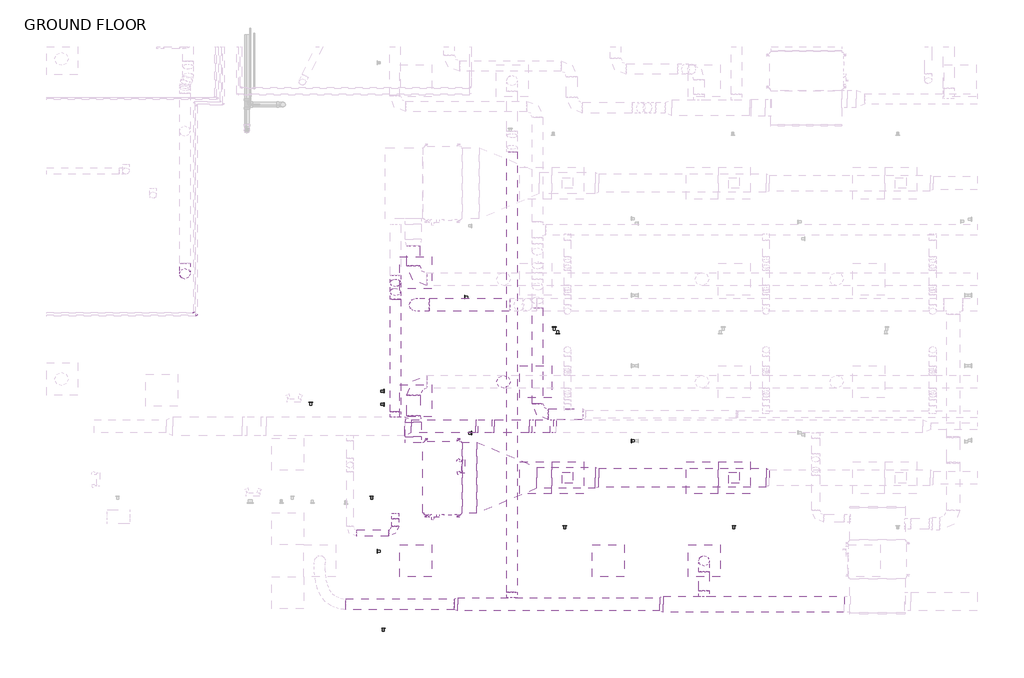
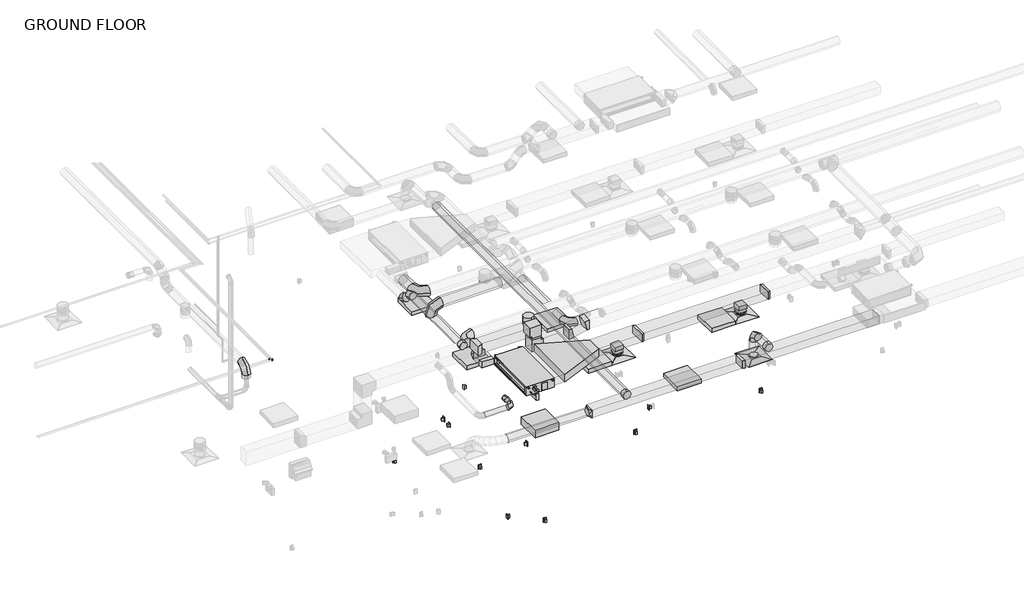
# One storey, part 2 of 22: 30 duct fittings, 28 duct segments, 8 light fixtures, 7 switching devices, 6 proxies, 3 air terminals, 2 pipe fittings, 1 electric appliance.
"""IFC4 building model written with IfcOpenShell, lengths in millimetres."""

from ifc_helpers import new_model, si_unit, point, frame, frame_2d, origin, place, context, project, spatial, polyline, circle_curve, trimmed, segment, composite_curve, outline, extrude, transform, mapped, element, save
from components import air_terminal_e9020785, mechanical_equipment_d478180c, duplex_receptacle_countertop_10251bba, rectangular_elbow_mitered_transition_standard_35919474, rectangular_elbow_radius_1_5_w_4707421c, rectangular_takeoff_standard_d07ea574, rectangular_takeoff_standard_fde45e03, rectangular_transition_angle_45_degree_e4fa7590, rectangular_transition_angle_45_degree_1d311e81, rectangular_transition_angle_45_degree_791ae252, rectangular_transition_angle_45_degree_a1440fe9, rectangular_transition_angle_45_degree_05e1d5e5, rectangular_to_round_transition_angle_45_degree_e9430680, rectangular_to_round_transition_angle_45_degree_5a025447, rectangular_to_round_transition_angle_45_degree_789dc1ad, round_elbow_1_d_a253342a, round_elbow_1_d_6fec3262, round_elbow_1_d_c80420c1, round_elbow_1_d_ab3aa7ba, round_takeoff_standard_d3b0d0f9, round_takeoff_standard_fb854549, round_takeoff_standard_c5a1f659, telephone_outlet_data_plain_18c24199, emergency_wall_light_120v_37438f40, troffer_corner_insert_2x2_3_lamp_emergency_29e3a813, troffer_corner_insert_2x2_3lamp_e67c7f8f, elbow_generic_standard_c06ac706, elbow_generic_standard_a088f956

model = new_model("IFC4")

# Units and contexts
model_context = context("Model", 3, world=origin())
ifc_project = project(units=[si_unit("LENGTHUNIT", "METRE", prefix="MILLI")], contexts=[model_context])

# Site, building, storey
site = spatial("IfcSite", under=ifc_project)
building = spatial("IfcBuilding", under=site)
storey = spatial("IfcBuildingStorey", under=building, Name="GROUND FLOOR", Elevation=30480.0)

# Air terminals
placement = place(None, origin())
air_terminal_shape = air_terminal_e9020785(model_context)
element("IfcAirTerminal", 1, ObjectType="Supply Diffuser - Rectangular Face Round Neck - Hosted : 24\"x24\" Face 8\" Neck - Hosted", at=placement, inside=storey, context=model_context, shape_type="MappedRepresentation", body=[
    mapped(air_terminal_shape, transform((-3970.9704607, -4228.1054995, 33223.2), x_axis=(0.0, -1.0, 0.0), y_axis=(-1.0, 0.0, 0.0), z_axis=(0.0, 0.0, -1.0))),
])
element("IfcAirTerminal", 2, ObjectType="Supply Diffuser - Rectangular Face Round Neck - Hosted : 24\"x24\" Face 8\" Neck - Hosted", at=placement, inside=storey, context=model_context, shape_type="MappedRepresentation", body=[
    mapped(air_terminal_shape, transform((-799.1454607, -4228.1054995, 33223.2), x_axis=(0.0, -1.0, 0.0), y_axis=(-1.0, 0.0, 0.0), z_axis=(0.0, 0.0, -1.0))),
])
element("IfcAirTerminal", 3, ObjectType="Supply Diffuser - Rectangular Face Round Neck - Hosted : 24\"x24\" Face 8\" Neck - Hosted", at=placement, inside=storey, context=model_context, shape_type="MappedRepresentation", body=[
    mapped(air_terminal_shape, transform((-1370.6454607, -5809.2554995, 33223.2), x_axis=(0.0, -1.0, 0.0), y_axis=(-1.0, 0.0, 0.0), z_axis=(0.0, 0.0, -1.0))),
])

# Proxies
mechanical_equipment_shape = mechanical_equipment_d478180c(model_context)
element("IfcBuildingElementProxy", 4, Name="PEFY-P-NMAU-E_Medium_Static_Ducted : PEFY-P36NMAU-E", ObjectType="PEFY-P-NMAU-E_Medium_Static_Ducted : PEFY-P36NMAU-E", at=placement, inside=storey, context=model_context, shape_type="MappedRepresentation", body=[
    mapped(mechanical_equipment_shape, transform((-6407.5018914, -4238.1177424, 33458.15), x_axis=(0.0, -1.0, 0.0), y_axis=(1.0, 0.0, 0.0), z_axis=(0.0, 0.0, 1.0))),
])
duplex_receptacle_countertop_shape = duplex_receptacle_countertop_10251bba(model_context)
element("IfcBuildingElementProxy", 5, Name="Duplex Receptacle : Standard", ObjectType="Duplex Receptacle : Standard", at=placement, inside=storey, context=model_context, shape_type="MappedRepresentation", body=[
    mapped(duplex_receptacle_countertop_shape, transform((-5799.7704607, -3377.6052402, 30937.2), x_axis=(0.0, 1.0, 0.0), y_axis=(0.0, 0.0, 1.0), z_axis=(1.0, 0.0, 0.0))),
])
element("IfcBuildingElementProxy", 6, Name="Duplex Receptacle : Standard", ObjectType="Duplex Receptacle : Standard", at=placement, inside=storey, context=model_context, shape_type="MappedRepresentation", body=[
    mapped(duplex_receptacle_countertop_shape, transform((-4158.8399036, -1484.9054995, 30937.2), x_axis=(1.0, 0.0, 0.0), y_axis=(0.0, 0.0, 1.0), z_axis=(0.0, -1.0, 0.0))),
])
element("IfcBuildingElementProxy", 7, Name="Duplex Receptacle : Standard", ObjectType="Duplex Receptacle : Standard", at=placement, inside=storey, context=model_context, shape_type="MappedRepresentation", body=[
    mapped(duplex_receptacle_countertop_shape, transform((-4224.9569269, -1361.0804995, 30937.2), x_axis=(-1.0, 0.0, 0.0), y_axis=(0.0, 0.0, 1.0), z_axis=(0.0, 1.0, 0.0))),
])
element("IfcBuildingElementProxy", 8, Name="Duplex Receptacle : Standard", ObjectType="Duplex Receptacle : Standard", at=placement, inside=storey, context=model_context, shape_type="MappedRepresentation", body=[
    mapped(duplex_receptacle_countertop_shape, transform((-5923.5954607, -788.0218283, 30937.2), x_axis=(0.0, -1.0, 0.0), y_axis=(0.0, 0.0, 1.0), z_axis=(-1.0, 0.0, 0.0))),
])
element("IfcBuildingElementProxy", 9, Name="Duplex Receptacle : Standard", ObjectType="Duplex Receptacle : Standard", at=placement, inside=storey, context=model_context, shape_type="MappedRepresentation", body=[
    mapped(duplex_receptacle_countertop_shape, transform((-7593.6454607, -5626.3898416, 30937.2), x_axis=(0.0, -1.0, 0.0), y_axis=(0.0, 0.0, 1.0), z_axis=(-1.0, 0.0, 0.0))),
])

# Duct fittings
rectangular_elbow_mitered_transition_standard_shape = rectangular_elbow_mitered_transition_standard_35919474(model_context)
element("IfcDuctFitting", 10, ObjectType="Rectangular Elbow - Mitered - Transition : Standard", at=placement, inside=storey, context=model_context, shape_type="MappedRepresentation", body=[
    mapped(rectangular_elbow_mitered_transition_standard_shape, transform((-5543.944811, -3245.6216457, 33909.0), x_axis=(1.0, 0.0, 0.0), y_axis=(0.0, 0.0, -1.0), z_axis=(0.0, 1.0, 0.0))),
])
element("IfcDuctFitting", 11, ObjectType="Rectangular Elbow - Mitered - Transition : Standard", at=placement, inside=storey, context=model_context, shape_type="MappedRepresentation", body=[
    mapped(rectangular_elbow_mitered_transition_standard_shape, transform((-5543.944811, -3245.6216457, 33502.6), x_axis=(-1.0, 0.0, 0.0), y_axis=(0.0, 0.0, 1.0), z_axis=(0.0, 1.0, 0.0))),
])
rectangular_elbow_radius_1_5_w_shape = rectangular_elbow_radius_1_5_w_4707421c(model_context)
element("IfcDuctFitting", 12, ObjectType="Rectangular Elbow - Radius : 1.5 W", at=placement, inside=storey, context=model_context, shape_type="MappedRepresentation", body=[
    mapped(rectangular_elbow_radius_1_5_w_shape, transform((-4654.944811, -3245.6216457, 33502.6), x_axis=(1.0, 0.0, 0.0), y_axis=(0.0, 0.0, 1.0), z_axis=(0.0, -1.0, 0.0))),
])
element("IfcDuctFitting", 13, ObjectType="Rectangular Elbow - Radius : 1.5 W", at=placement, inside=storey, context=model_context, shape_type="MappedRepresentation", body=[
    mapped(rectangular_elbow_radius_1_5_w_shape, transform((-4228.8077618, -3245.6216457, 33602.867541), x_axis=(-1.0, 0.0, 0.0), y_axis=(0.0, 0.0, -1.0), z_axis=(0.0, -1.0, 0.0))),
])
rectangular_takeoff_standard_shape = rectangular_takeoff_standard_d07ea574(model_context)
element("IfcDuctFitting", 14, ObjectType="Rectangular Takeoff : Standard", at=placement, inside=storey, context=model_context, shape_type="MappedRepresentation", body=[
    mapped(rectangular_takeoff_standard_shape, transform((-799.1454607, -4228.1054995, 33502.6), x_axis=(0.0, 0.0, -1.0), y_axis=(1.0, 0.0, 0.0), z_axis=(0.0, -1.0, 0.0))),
])
element("IfcDuctFitting", 15, ObjectType="Rectangular Takeoff : Standard", at=placement, inside=storey, context=model_context, shape_type="MappedRepresentation", body=[
    mapped(rectangular_takeoff_standard_shape, transform((-3970.9704607, -4228.1054995, 33502.6), x_axis=(0.0, 0.0, -1.0), y_axis=(1.0, 0.0, 0.0), z_axis=(0.0, -1.0, 0.0))),
])
rectangular_takeoff_standard_2_shape = rectangular_takeoff_standard_fde45e03(model_context)
element("IfcDuctFitting", 16, ObjectType="Rectangular Takeoff : Standard", at=placement, inside=storey, context=model_context, shape_type="MappedRepresentation", body=[
    mapped(rectangular_takeoff_standard_2_shape, transform((-6905.278652, -3550.2429995, 33617.69375), x_axis=(0.0, 1.0, 0.0), y_axis=(-1.0, 0.0, 0.0), z_axis=(0.0, 0.0, 1.0))),
])
rectangular_transition_angle_45_degree_shape = rectangular_transition_angle_45_degree_e4fa7590(model_context)
element("IfcDuctFitting", 17, ObjectType="Rectangular Transition - Angle : 45 Degree", at=placement, inside=storey, context=model_context, shape_type="MappedRepresentation", body=[
    mapped(rectangular_transition_angle_45_degree_shape, transform((-6945.302762, -3245.6216457, 33909.0), x_axis=(-1.0, 0.0, 0.0), y_axis=(0.0, -1.0, 0.0), z_axis=(0.0, 0.0, 1.0))),
])
rectangular_transition_angle_45_degree_2_shape = rectangular_transition_angle_45_degree_1d311e81(model_context)
element("IfcDuctFitting", 18, ObjectType="Rectangular Transition - Angle : 45 Degree", at=placement, inside=storey, context=model_context, shape_type="MappedRepresentation", body=[
    mapped(rectangular_transition_angle_45_degree_2_shape, transform((-2152.8792966, -6635.2850038, 33877.25), x_axis=(-1.0, 0.0, 0.0), y_axis=(0.0, -1.0, 0.0), z_axis=(0.0, 0.0, 1.0))),
])
rectangular_transition_angle_45_degree_3_shape = rectangular_transition_angle_45_degree_791ae252(model_context)
element("IfcDuctFitting", 19, ObjectType="Rectangular Transition - Angle : 45 Degree", at=placement, inside=storey, context=model_context, shape_type="MappedRepresentation", body=[
    mapped(rectangular_transition_angle_45_degree_3_shape, transform((-3441.5200089, -4228.1054995, 33604.2), x_axis=(1.0, 0.0, 0.0), y_axis=(0.0, 1.0, 0.0), z_axis=(0.0, 0.0, 1.0))),
])
rectangular_transition_angle_45_degree_4_shape = rectangular_transition_angle_45_degree_a1440fe9(model_context)
element("IfcDuctFitting", 20, ObjectType="Rectangular Transition - Angle : 45 Degree", at=placement, inside=storey, context=model_context, shape_type="MappedRepresentation", body=[
    mapped(rectangular_transition_angle_45_degree_4_shape, transform((-189.5454607, -4228.1054995, 33604.2), x_axis=(1.0, 0.0, 0.0), y_axis=(0.0, 1.0, 0.0), z_axis=(0.0, 0.0, 1.0))),
])
rectangular_transition_angle_45_degree_5_shape = rectangular_transition_angle_45_degree_05e1d5e5(model_context)
element("IfcDuctFitting", 21, ObjectType="Rectangular Transition - Angle : 45 Degree", at=placement, inside=storey, context=model_context, shape_type="MappedRepresentation", body=[
    mapped(rectangular_transition_angle_45_degree_5_shape, transform((-4556.1833638, -4228.1054995, 33604.2), x_axis=(-1.0, 0.0, 0.0), y_axis=(0.0, -1.0, 0.0), z_axis=(0.0, 0.0, 1.0))),
])
rectangular_to_round_transition_angle_45_degree_shape = rectangular_to_round_transition_angle_45_degree_e9430680(model_context)
element("IfcDuctFitting", 22, ObjectType="Rectangular to Round Transition - Angle : 45 Degree", at=placement, inside=storey, context=model_context, shape_type="MappedRepresentation", body=[
    mapped(rectangular_to_round_transition_angle_45_degree_shape, transform((-6064.4792966, -6635.2850038, 33877.25), x_axis=(-1.0, 0.0, 0.0), y_axis=(0.0, -1.0, 0.0), z_axis=(0.0, 0.0, 1.0))),
])
rectangular_to_round_transition_angle_45_degree_2_shape = rectangular_to_round_transition_angle_45_degree_5a025447(model_context)
element("IfcDuctFitting", 23, ObjectType="Rectangular to Round Transition - Angle : 45 Degree", at=placement, inside=storey, context=model_context, shape_type="MappedRepresentation", body=[
    mapped(rectangular_to_round_transition_angle_45_degree_2_shape, transform((-799.1454607, -4228.1054995, 33327.975), x_axis=(0.0, 0.0, -1.0), y_axis=(1.0, 0.0, 0.0), z_axis=(0.0, -1.0, 0.0))),
])
element("IfcDuctFitting", 24, ObjectType="Rectangular to Round Transition - Angle : 45 Degree", at=placement, inside=storey, context=model_context, shape_type="MappedRepresentation", body=[
    mapped(rectangular_to_round_transition_angle_45_degree_2_shape, transform((-3970.9704607, -4228.1054995, 33327.975), x_axis=(0.0, 0.0, -1.0), y_axis=(1.0, 0.0, 0.0), z_axis=(0.0, -1.0, 0.0))),
])
rectangular_to_round_transition_angle_45_degree_3_shape = rectangular_to_round_transition_angle_45_degree_789dc1ad(model_context)
element("IfcDuctFitting", 25, ObjectType="Rectangular to Round Transition - Angle : 45 Degree", at=placement, inside=storey, context=model_context, shape_type="MappedRepresentation", body=[
    mapped(rectangular_to_round_transition_angle_45_degree_3_shape, transform((-6905.278652, -3169.2429995, 33617.69375), x_axis=(0.0, 1.0, 0.0), y_axis=(-1.0, 0.0, 0.0), z_axis=(0.0, 0.0, 1.0))),
])
round_elbow_1_d_shape = round_elbow_1_d_a253342a(model_context)
element("IfcDuctFitting", 26, ObjectType="Round Elbow : 1 D", at=placement, inside=storey, context=model_context, shape_type="MappedRepresentation", body=[
    mapped(round_elbow_1_d_shape, transform((-11256.8513201, -341.9054995, 33121.6), x_axis=(0.0, -1.0, 0.0), y_axis=(0.0, 0.0, -1.0), z_axis=(1.0, 0.0, 0.0))),
])
element("IfcDuctFitting", 27, ObjectType="Round Elbow : 1 D", at=placement, inside=storey, context=model_context, shape_type="MappedRepresentation", body=[
    mapped(round_elbow_1_d_shape, transform((-4541.976464, -3019.0145579, 33528.0), x_axis=(0.0, -1.0, 0.0), y_axis=(1.0, 0.0, 0.0), z_axis=(0.0, 0.0, 1.0))),
])
element("IfcDuctFitting", 28, ObjectType="Round Elbow : 1 D", at=placement, inside=storey, context=model_context, shape_type="MappedRepresentation", body=[
    mapped(round_elbow_1_d_shape, transform((-1370.6454607, -5809.2554995, 33877.25), x_axis=(0.0, 0.0, 1.0), y_axis=(0.0, -1.0, 0.0), z_axis=(1.0, 0.0, 0.0))),
])
round_elbow_1_d_2_shape = round_elbow_1_d_6fec3262(model_context)
element("IfcDuctFitting", 29, ObjectType="Round Elbow : 1 D", at=placement, inside=storey, context=model_context, shape_type="MappedRepresentation", body=[
    mapped(round_elbow_1_d_2_shape, transform((-6857.0454607, -932.4554995, 33578.8), x_axis=(0.0, 0.0, 1.0), y_axis=(1.0, 0.0, 0.0), z_axis=(0.0, 1.0, 0.0))),
])
element("IfcDuctFitting", 30, ObjectType="Round Elbow : 1 D", at=placement, inside=storey, context=model_context, shape_type="MappedRepresentation", body=[
    mapped(round_elbow_1_d_2_shape, transform((-6905.278652, -2399.3054995, 33617.69375), x_axis=(-1.0, 0.0, 0.0), y_axis=(0.0, -1.0, 0.0), z_axis=(0.0, 0.0, 1.0))),
])
element("IfcDuctFitting", 31, ObjectType="Round Elbow : 1 D", at=placement, inside=storey, context=model_context, shape_type="MappedRepresentation", body=[
    mapped(round_elbow_1_d_2_shape, transform((-6907.4143044, -446.6804995, 33617.69375), x_axis=(0.0, -1.0, 0.0), y_axis=(1.0, 0.0, 0.0), z_axis=(0.0, 0.0, 1.0))),
])
round_elbow_1_d_3_shape = round_elbow_1_d_c80420c1(model_context)
element("IfcDuctFitting", 32, ObjectType="Round Elbow : 1 D", at=placement, inside=storey, context=model_context, shape_type="MappedRepresentation", body=[
    mapped(round_elbow_1_d_3_shape, transform((-7251.3950198, -5277.6216457, 33617.69375), x_axis=(1.0, 0.0, 0.0), y_axis=(0.0, 1.0, 0.0), z_axis=(0.0, 0.0, 1.0))),
])
round_elbow_1_d_4_shape = round_elbow_1_d_ab3aa7ba(model_context)
element("IfcDuctFitting", 33, ObjectType="Round Elbow : 1 D", at=placement, inside=storey, context=model_context, shape_type="MappedRepresentation", body=[
    mapped(round_elbow_1_d_4_shape, transform((-7247.6134283, -456.5972917, 33617.69375), x_axis=(0.0, -1.0, 0.0), y_axis=(0.0, 0.0, 1.0), z_axis=(-1.0, 0.0, 0.0))),
])
element("IfcDuctFitting", 34, ObjectType="Round Elbow : 1 D", at=placement, inside=storey, context=model_context, shape_type="MappedRepresentation", body=[
    mapped(round_elbow_1_d_4_shape, transform((-7247.6134283, -747.9035417, 33909.0), x_axis=(0.0, -0.7071067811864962, 0.7071067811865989), y_axis=(0.0, -0.7071067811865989, -0.7071067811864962), z_axis=(1.0, 0.0, 0.0))),
])
round_takeoff_standard_shape = round_takeoff_standard_d3b0d0f9(model_context)
element("IfcDuctFitting", 35, ObjectType="Round Takeoff : Standard", at=placement, inside=storey, context=model_context, shape_type="MappedRepresentation", body=[
    mapped(round_takeoff_standard_shape, transform((-7247.6134283, -3067.8216457, 33909.0), x_axis=(0.0, 1.0, 0.0), y_axis=(1.0, 0.0, 0.0), z_axis=(0.0, 0.0, -1.0))),
])
element("IfcDuctFitting", 36, ObjectType="Round Takeoff : Standard", at=placement, inside=storey, context=model_context, shape_type="MappedRepresentation", body=[
    mapped(round_takeoff_standard_shape, transform((-1370.6454607, -6482.8850038, 33877.25), x_axis=(0.0, 1.0, 0.0), y_axis=(1.0, 0.0, 0.0), z_axis=(0.0, 0.0, -1.0))),
])
element("IfcDuctFitting", 37, ObjectType="Round Takeoff : Standard", at=placement, inside=storey, context=model_context, shape_type="MappedRepresentation", body=[
    mapped(round_takeoff_standard_shape, transform((-5028.2454607, -6508.2850038, 33877.25), x_axis=(0.0, 1.0, 0.0), y_axis=(1.0, 0.0, 0.0), z_axis=(0.0, 0.0, -1.0))),
])
round_takeoff_standard_2_shape = round_takeoff_standard_fb854549(model_context)
element("IfcDuctFitting", 38, ObjectType="Round Takeoff : Standard", at=placement, inside=storey, context=model_context, shape_type="MappedRepresentation", body=[
    mapped(round_takeoff_standard_2_shape, transform((-7251.3950198, -4905.9679995, 33617.69375), x_axis=(0.0, -1.0, 0.0), y_axis=(-1.0, 0.0, 0.0), z_axis=(0.0, 0.0, -1.0))),
])
round_takeoff_standard_3_shape = round_takeoff_standard_c5a1f659(model_context)
element("IfcDuctFitting", 39, ObjectType="Round Takeoff : Standard", at=placement, inside=storey, context=model_context, shape_type="MappedRepresentation", body=[
    mapped(round_takeoff_standard_3_shape, transform((-5190.1704607, -2399.3054995, 33490.69375), x_axis=(0.0, 0.0, -1.0), y_axis=(-1.0, 0.0, 0.0), z_axis=(0.0, 1.0, 0.0))),
])

# Duct segments
element("IfcDuctSegment", 40, ObjectType="Mitered Elbows / Taps", at=placement, inside=storey, context=model_context, shape_type="SweptSolid", body=[
    extrude(outline(polyline([(1301.5207034, -6482.8850038), (1301.5207034, -6787.6850038), (-2152.8792966, -6787.6850038), (-2152.8792966, -6482.8850038), (1301.5207034, -6482.8850038)])), frame((0.0, 0.0, 33775.65), z_axis=(0.0, 0.0, 1.0), x_axis=(1.0, 0.0, 0.0)), (0.0, 0.0, 1.0), 203.2),
])
element("IfcDuctSegment", 41, ObjectType="Mitered Elbows / Taps", at=placement, inside=storey, context=model_context, shape_type="SweptSolid", body=[
    extrude(outline(polyline([(-2214.200321, -6508.2850038), (-2214.200321, -6762.2850038), (-6064.4792966, -6762.2850038), (-6064.4792966, -6508.2850038), (-2214.200321, -6508.2850038)])), frame((0.0, 0.0, 33775.65), z_axis=(0.0, 0.0, 1.0), x_axis=(1.0, 0.0, 0.0)), (0.0, 0.0, 1.0), 203.2),
])
element("IfcDuctSegment", 42, ObjectType="Mitered Elbows / Taps", at=placement, inside=storey, context=model_context, shape_type="SweptSolid", body=[
    extrude(outline(polyline([(-3380.1989844, -4405.9054995), (-3380.1989844, -4050.3054995), (-189.5454607, -4050.3054995), (-189.5454607, -4405.9054995), (-3380.1989844, -4405.9054995)])), frame((0.0, 0.0, 33502.6), z_axis=(0.0, 0.0, 1.0), x_axis=(1.0, 0.0, 0.0)), (0.0, 0.0, 1.0), 203.2),
])
element("IfcDuctSegment", 43, ObjectType="Mitered Elbows / Taps", at=placement, inside=storey, context=model_context, shape_type="SweptSolid", body=[
    extrude(outline(polyline([(-5978.8768914, -4905.9679995), (-5978.8768914, -3550.2429995), (-5702.1200089, -3550.2429995), (-5702.1200089, -4905.9679995), (-5978.8768914, -4905.9679995)])), frame((0.0, 0.0, 33501.0125), z_axis=(0.0, 0.0, 1.0), x_axis=(1.0, 0.0, 0.0)), (0.0, 0.0, 1.0), 206.375),
])
element("IfcDuctSegment", 44, ObjectType="Mitered Elbows / Taps", at=placement, inside=storey, context=model_context, shape_type="SweptSolid", body=[
    extrude(outline(polyline([(-3441.5200089, -4024.9054995), (-3441.5200089, -4431.3054995), (-4556.1833638, -4431.3054995), (-4556.1833638, -4024.9054995), (-3441.5200089, -4024.9054995)])), frame((0.0, 0.0, 33502.6), z_axis=(0.0, 0.0, 1.0), x_axis=(1.0, 0.0, 0.0)), (0.0, 0.0, 1.0), 203.2),
])
element("IfcDuctSegment", 45, ObjectType="Mitered Elbows / Taps", at=placement, inside=storey, context=model_context, shape_type="SweptSolid", body=[
    extrude(outline(polyline([(-900.7454607, -4126.5054995), (-697.5454607, -4126.5054995), (-697.5454607, -4329.7054995), (-900.7454607, -4329.7054995), (-900.7454607, -4126.5054995)])), frame((0.0, 0.0, 33327.975), z_axis=(0.0, 0.0, 1.0), x_axis=(1.0, 0.0, 0.0)), (0.0, 0.0, 1.0), 73.025),
])
element("IfcDuctSegment", 46, ObjectType="Mitered Elbows / Taps", at=placement, inside=storey, context=model_context, shape_type="SweptSolid", body=[
    extrude(outline(polyline([(-4072.5704607, -4126.5054995), (-3869.3704607, -4126.5054995), (-3869.3704607, -4329.7054995), (-4072.5704607, -4329.7054995), (-4072.5704607, -4126.5054995)])), frame((0.0, 0.0, 33327.975), z_axis=(0.0, 0.0, 1.0), x_axis=(1.0, 0.0, 0.0)), (0.0, 0.0, 1.0), 73.025),
])
element("IfcDuctSegment", 47, ObjectType="Mitered Elbows / Taps", at=placement, inside=storey, context=model_context, shape_type="SweptSolid", body=[
    extrude(outline(polyline([(-6752.878652, -3448.6429995), (-7057.678652, -3448.6429995), (-7057.678652, -3169.2429995), (-6752.878652, -3169.2429995), (-6752.878652, -3448.6429995)])), frame((0.0, 0.0, 33541.49375), z_axis=(0.0, 0.0, 1.0), x_axis=(1.0, 0.0, 0.0)), (0.0, 0.0, 1.0), 152.4),
])
element("IfcDuctSegment", 48, ObjectType="Mitered Elbows / Taps", at=placement, inside=storey, context=model_context, shape_type="SweptSolid", body=[
    extrude(outline(polyline([(-5416.944811, -3372.6216457), (-5670.944811, -3372.6216457), (-5670.944811, -3118.6216457), (-5416.944811, -3118.6216457), (-5416.944811, -3372.6216457)])), frame((0.0, 0.0, 33680.4), z_axis=(0.0, 0.0, 1.0), x_axis=(1.0, 0.0, 0.0)), (0.0, 0.0, 1.0), 50.8),
])
element("IfcDuctSegment", 49, ObjectType="Mitered Elbows / Taps", at=placement, inside=storey, context=model_context, shape_type="SweptSolid", body=[
    extrude(outline(polyline([(-5721.744811, -3118.6216457), (-5721.744811, -3372.6216457), (-6945.302762, -3372.6216457), (-6945.302762, -3118.6216457), (-5721.744811, -3118.6216457)])), frame((0.0, 0.0, 33782.0), z_axis=(0.0, 0.0, 1.0), x_axis=(1.0, 0.0, 0.0)), (0.0, 0.0, 1.0), 254.0),
])
element("IfcDuctSegment", 50, ObjectType="Radius Elbows / Taps", at=placement, inside=storey, context=model_context, shape_type="SweptSolid", body=[
    extrude(outline(polyline([(-5366.144811, -3372.6216457), (-5366.144811, -3118.6216457), (-4699.164547, -3118.6216457), (-4699.164547, -3372.6216457), (-5366.144811, -3372.6216457)])), frame((0.0, 0.0, 33375.6), z_axis=(0.0, 0.0, 1.0), x_axis=(1.0, 0.0, 0.0)), (0.0, 0.0, 1.0), 254.0),
])
element("IfcDuctSegment", 51, ObjectType="Radius Elbows / Taps", at=placement, inside=storey, context=model_context, shape_type="SweptSolid", body=[
    extrude(outline(polyline([(0.0, -254.0), (0.0, 0.0), (349.3348585, 0.0), (349.3348585, -254.0), (0.0, -254.0)])), frame((-4582.8125654, -3118.6216457, 33389.1040785), z_axis=(-0.22903933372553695, 0.0, 0.9734171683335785), x_axis=(0.9734171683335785, 0.0, 0.22903933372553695)), (0.0, 0.0, 1.0), 254.0),
])
element("IfcDuctSegment", 52, ObjectType="Taps / Short Radius", at=placement, inside=storey, context=model_context, shape_type="SweptSolid", body=[
    extrude(outline(composite_curve([segment(trimmed(circle_curve(frame_2d((-6635.2850038, 33877.25)), 101.6), [point((-6533.6850038, 33877.25))], [point((-6635.2850038, 33775.65))], False, "CARTESIAN"), True, "CONTINUOUS"), segment(trimmed(circle_curve(frame_2d((-6635.2850038, 33877.25)), 101.6), [point((-6635.2850038, 33775.65))], [point((-6736.8850038, 33877.25))], False, "CARTESIAN"), True, "CONTINUOUS"), segment(trimmed(circle_curve(frame_2d((-6635.2850038, 33877.25)), 101.6), [point((-6736.8850038, 33877.25))], [point((-6635.2850038, 33978.85))], False, "CARTESIAN"), True, "CONTINUOUS"), segment(trimmed(circle_curve(frame_2d((-6635.2850038, 33877.25)), 101.6), [point((-6635.2850038, 33978.85))], [point((-6533.6850038, 33877.25))], False, "CARTESIAN"), True, "CONTINUOUS")], self_intersect=False)), frame((-8198.0792966, 0.0, 0.0), z_axis=(1.0, 0.0, 0.0), x_axis=(0.0, 1.0, 0.0)), (0.0, 0.0, 1.0), 2072.2789755),
])
element("IfcDuctSegment", 53, ObjectType="Taps / Short Radius", at=placement, inside=storey, context=model_context, shape_type="SweptSolid", body=[
    extrude(outline(composite_curve([segment(trimmed(circle_curve(frame_2d((-11256.8513201, -341.9054995)), 101.6), [point((-11155.2513201, -341.9054995))], [point((-11256.8513201, -443.5054995))], False, "CARTESIAN"), True, "CONTINUOUS"), segment(trimmed(circle_curve(frame_2d((-11256.8513201, -341.9054995)), 101.6), [point((-11256.8513201, -443.5054995))], [point((-11358.4513201, -341.9054995))], False, "CARTESIAN"), True, "CONTINUOUS"), segment(trimmed(circle_curve(frame_2d((-11256.8513201, -341.9054995)), 101.6), [point((-11358.4513201, -341.9054995))], [point((-11256.8513201, -240.3054995))], False, "CARTESIAN"), True, "CONTINUOUS"), segment(trimmed(circle_curve(frame_2d((-11256.8513201, -341.9054995)), 101.6), [point((-11256.8513201, -240.3054995))], [point((-11155.2513201, -341.9054995))], False, "CARTESIAN"), True, "CONTINUOUS")], self_intersect=False)), frame((0.0, 0.0, 32816.8), z_axis=(0.0, 0.0, 1.0), x_axis=(1.0, 0.0, 0.0)), (0.0, 0.0, 1.0), 101.6),
])
element("IfcDuctSegment", 54, ObjectType="Taps / Short Radius", at=placement, inside=storey, context=model_context, shape_type="SweptSolid", body=[
    extrude(outline(composite_curve([segment(trimmed(circle_curve(frame_2d((-932.4554995, 33578.8)), 127.0), [point((-805.4554995, 33578.8))], [point((-932.4554995, 33451.8))], False, "CARTESIAN"), True, "CONTINUOUS"), segment(trimmed(circle_curve(frame_2d((-932.4554995, 33578.8)), 127.0), [point((-932.4554995, 33451.8))], [point((-1059.4554995, 33578.8))], False, "CARTESIAN"), True, "CONTINUOUS"), segment(trimmed(circle_curve(frame_2d((-932.4554995, 33578.8)), 127.0), [point((-1059.4554995, 33578.8))], [point((-932.4554995, 33705.8))], False, "CARTESIAN"), True, "CONTINUOUS"), segment(trimmed(circle_curve(frame_2d((-932.4554995, 33578.8)), 127.0), [point((-932.4554995, 33705.8))], [point((-805.4554995, 33578.8))], False, "CARTESIAN"), True, "CONTINUOUS")], self_intersect=False)), frame((-6603.0454607, 0.0, 0.0), z_axis=(1.0, 0.0, 0.0), x_axis=(0.0, 1.0, 0.0)), (0.0, 0.0, 1.0), 1528.2153568),
])
element("IfcDuctSegment", 55, ObjectType="Taps / Short Radius", at=placement, inside=storey, context=model_context, shape_type="SweptSolid", body=[
    extrude(outline(composite_curve([segment(trimmed(circle_curve(frame_2d((33617.69375, -6905.278652)), 127.0), [point((33617.69375, -6778.278652))], [point((33744.69375, -6905.278652))], False, "CARTESIAN"), True, "CONTINUOUS"), segment(trimmed(circle_curve(frame_2d((33617.69375, -6905.278652)), 127.0), [point((33744.69375, -6905.278652))], [point((33617.69375, -7032.278652))], False, "CARTESIAN"), True, "CONTINUOUS"), segment(trimmed(circle_curve(frame_2d((33617.69375, -6905.278652)), 127.0), [point((33617.69375, -7032.278652))], [point((33490.69375, -6905.278652))], False, "CARTESIAN"), True, "CONTINUOUS"), segment(trimmed(circle_curve(frame_2d((33617.69375, -6905.278652)), 127.0), [point((33490.69375, -6905.278652))], [point((33617.69375, -6778.278652))], False, "CARTESIAN"), True, "CONTINUOUS")], self_intersect=False)), frame((0.0, -3046.6009505, 0.0), z_axis=(0.0, 1.0, 0.0), x_axis=(0.0, 0.0, 1.0)), (0.0, 0.0, 1.0), 393.295451),
])
element("IfcDuctSegment", 56, ObjectType="Taps / Short Radius", at=placement, inside=storey, context=model_context, shape_type="SweptSolid", body=[
    extrude(outline(composite_curve([segment(trimmed(circle_curve(frame_2d((-5190.1704607, -2399.3054995)), 127.0), [point((-5317.1704607, -2399.3054995))], [point((-5190.1704607, -2272.3054995))], False, "CARTESIAN"), True, "CONTINUOUS"), segment(trimmed(circle_curve(frame_2d((-5190.1704607, -2399.3054995)), 127.0), [point((-5190.1704607, -2272.3054995))], [point((-5063.1704607, -2399.3054995))], False, "CARTESIAN"), True, "CONTINUOUS"), segment(trimmed(circle_curve(frame_2d((-5190.1704607, -2399.3054995)), 127.0), [point((-5063.1704607, -2399.3054995))], [point((-5190.1704607, -2526.3054995))], False, "CARTESIAN"), True, "CONTINUOUS"), segment(trimmed(circle_curve(frame_2d((-5190.1704607, -2399.3054995)), 127.0), [point((-5190.1704607, -2526.3054995))], [point((-5317.1704607, -2399.3054995))], False, "CARTESIAN"), True, "CONTINUOUS")], self_intersect=False)), frame((0.0, 0.0, 33324.8), z_axis=(0.0, 0.0, 1.0), x_axis=(1.0, 0.0, 0.0)), (0.0, 0.0, 1.0), 64.29375),
])
element("IfcDuctSegment", 57, ObjectType="Taps / Short Radius", at=placement, inside=storey, context=model_context, shape_type="SweptSolid", body=[
    extrude(outline(composite_curve([segment(trimmed(circle_curve(frame_2d((33617.69375, -6907.4143044)), 127.0), [point((33617.69375, -7034.4143044))], [point((33490.69375, -6907.4143044))], False, "CARTESIAN"), True, "CONTINUOUS"), segment(trimmed(circle_curve(frame_2d((33617.69375, -6907.4143044)), 127.0), [point((33490.69375, -6907.4143044))], [point((33617.69375, -6780.4143044))], False, "CARTESIAN"), True, "CONTINUOUS"), segment(trimmed(circle_curve(frame_2d((33617.69375, -6907.4143044)), 127.0), [point((33617.69375, -6780.4143044))], [point((33744.69375, -6907.4143044))], False, "CARTESIAN"), True, "CONTINUOUS"), segment(trimmed(circle_curve(frame_2d((33617.69375, -6907.4143044)), 127.0), [point((33744.69375, -6907.4143044))], [point((33617.69375, -7034.4143044))], False, "CARTESIAN"), True, "CONTINUOUS")], self_intersect=False)), frame((0.0, -192.6804995, 0.0), z_axis=(0.0, 1.0, 0.0), x_axis=(0.0, 0.0, 1.0)), (0.0, 0.0, 1.0), 385.357951),
])
element("IfcDuctSegment", 58, ObjectType="Taps / Short Radius", at=placement, inside=storey, context=model_context, shape_type="SweptSolid", body=[
    extrude(outline(composite_curve([segment(trimmed(circle_curve(frame_2d((-5190.1704607, -446.6804995)), 127.0), [point((-5317.1704607, -446.6804995))], [point((-5190.1704607, -319.6804995))], False, "CARTESIAN"), True, "CONTINUOUS"), segment(trimmed(circle_curve(frame_2d((-5190.1704607, -446.6804995)), 127.0), [point((-5190.1704607, -319.6804995))], [point((-5063.1704607, -446.6804995))], False, "CARTESIAN"), True, "CONTINUOUS"), segment(trimmed(circle_curve(frame_2d((-5190.1704607, -446.6804995)), 127.0), [point((-5063.1704607, -446.6804995))], [point((-5190.1704607, -573.6804995))], False, "CARTESIAN"), True, "CONTINUOUS"), segment(trimmed(circle_curve(frame_2d((-5190.1704607, -446.6804995)), 127.0), [point((-5190.1704607, -573.6804995))], [point((-5317.1704607, -446.6804995))], False, "CARTESIAN"), True, "CONTINUOUS")], self_intersect=False)), frame((0.0, 0.0, 33324.8), z_axis=(0.0, 0.0, 1.0), x_axis=(1.0, 0.0, 0.0)), (0.0, 0.0, 1.0), 64.29375),
])
element("IfcDuctSegment", 59, ObjectType="Taps / Short Radius", at=placement, inside=storey, context=model_context, shape_type="SweptSolid", body=[
    extrude(outline(composite_curve([segment(trimmed(circle_curve(frame_2d((0.0, 101.6)), 101.6), [point((-101.6, 101.6))], [point((0.0, 203.2))], False, "CARTESIAN"), True, "CONTINUOUS"), segment(trimmed(circle_curve(frame_2d((0.0, 101.6)), 101.6), [point((0.0, 203.2))], [point((101.6, 101.6))], False, "CARTESIAN"), True, "CONTINUOUS"), segment(trimmed(circle_curve(frame_2d((0.0, 101.6)), 101.6), [point((101.6, 101.6))], [point((0.0, 0.0))], False, "CARTESIAN"), True, "CONTINUOUS"), segment(trimmed(circle_curve(frame_2d((0.0, 101.6)), 101.6), [point((0.0, 0.0))], [point((-101.6, 101.6))], False, "CARTESIAN"), True, "CONTINUOUS")], self_intersect=False)), frame((-7247.6134283, -587.9552428, 33605.3676031), z_axis=(0.0, -0.7071067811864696, 0.7071067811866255), x_axis=(1.0, 0.0, 0.0)), (0.0, 0.0, 1.0), 243.6328578),
])
element("IfcDuctSegment", 60, ObjectType="Taps / Short Radius", at=placement, inside=storey, context=model_context, shape_type="SweptSolid", body=[
    extrude(outline(composite_curve([segment(trimmed(circle_curve(frame_2d((33909.0, -7247.6134283)), 101.6), [point((33909.0, -7146.0134283))], [point((34010.6, -7247.6134283))], False, "CARTESIAN"), True, "CONTINUOUS"), segment(trimmed(circle_curve(frame_2d((33909.0, -7247.6134283)), 101.6), [point((34010.6, -7247.6134283))], [point((33909.0, -7349.2134283))], False, "CARTESIAN"), True, "CONTINUOUS"), segment(trimmed(circle_curve(frame_2d((33909.0, -7247.6134283)), 101.6), [point((33909.0, -7349.2134283))], [point((33807.4, -7247.6134283))], False, "CARTESIAN"), True, "CONTINUOUS"), segment(trimmed(circle_curve(frame_2d((33909.0, -7247.6134283)), 101.6), [point((33807.4, -7247.6134283))], [point((33909.0, -7146.0134283))], False, "CARTESIAN"), True, "CONTINUOUS")], self_intersect=False)), frame((0.0, -2966.2216457, 0.0), z_axis=(0.0, 1.0, 0.0), x_axis=(0.0, 0.0, 1.0)), (0.0, 0.0, 1.0), 2134.1499081),
])
element("IfcDuctSegment", 61, ObjectType="Taps / Short Radius", at=placement, inside=storey, context=model_context, shape_type="SweptSolid", body=[
    extrude(outline(composite_curve([segment(trimmed(circle_curve(frame_2d((-3019.0145579, 33528.0)), 101.6), [point((-2917.4145579, 33528.0))], [point((-3019.0145579, 33426.4))], False, "CARTESIAN"), True, "CONTINUOUS"), segment(trimmed(circle_curve(frame_2d((-3019.0145579, 33528.0)), 101.6), [point((-3019.0145579, 33426.4))], [point((-3120.6145579, 33528.0))], False, "CARTESIAN"), True, "CONTINUOUS"), segment(trimmed(circle_curve(frame_2d((-3019.0145579, 33528.0)), 101.6), [point((-3120.6145579, 33528.0))], [point((-3019.0145579, 33629.6))], False, "CARTESIAN"), True, "CONTINUOUS"), segment(trimmed(circle_curve(frame_2d((-3019.0145579, 33528.0)), 101.6), [point((-3019.0145579, 33629.6))], [point((-2917.4145579, 33528.0))], False, "CARTESIAN"), True, "CONTINUOUS")], self_intersect=False)), frame((-4338.776464, 0.0, 0.0), z_axis=(1.0, 0.0, 0.0), x_axis=(0.0, 1.0, 0.0)), (0.0, 0.0, 1.0), 656.8980542),
])
element("IfcDuctSegment", 62, ObjectType="Taps / Short Radius", at=placement, inside=storey, context=model_context, shape_type="SweptSolid", body=[
    extrude(outline(composite_curve([segment(trimmed(circle_curve(frame_2d((33528.0, -4541.976464)), 101.6), [point((33528.0, -4440.376464))], [point((33629.6, -4541.976464))], False, "CARTESIAN"), True, "CONTINUOUS"), segment(trimmed(circle_curve(frame_2d((33528.0, -4541.976464)), 101.6), [point((33629.6, -4541.976464))], [point((33528.0, -4643.576464))], False, "CARTESIAN"), True, "CONTINUOUS"), segment(trimmed(circle_curve(frame_2d((33528.0, -4541.976464)), 101.6), [point((33528.0, -4643.576464))], [point((33426.4, -4541.976464))], False, "CARTESIAN"), True, "CONTINUOUS"), segment(trimmed(circle_curve(frame_2d((33528.0, -4541.976464)), 101.6), [point((33426.4, -4541.976464))], [point((33528.0, -4440.376464))], False, "CARTESIAN"), True, "CONTINUOUS")], self_intersect=False)), frame((0.0, -2815.8145579, 0.0), z_axis=(0.0, 1.0, 0.0), x_axis=(0.0, 0.0, 1.0)), (0.0, 0.0, 1.0), 1821.8232036),
])
element("IfcDuctSegment", 63, ObjectType="Taps / Short Radius", at=placement, inside=storey, context=model_context, shape_type="SweptSolid", body=[
    extrude(outline(composite_curve([segment(trimmed(circle_curve(frame_2d((33877.25, -5028.2454607)), 101.6), [point((33877.25, -5129.8454607))], [point((33775.65, -5028.2454607))], False, "CARTESIAN"), True, "CONTINUOUS"), segment(trimmed(circle_curve(frame_2d((33877.25, -5028.2454607)), 101.6), [point((33775.65, -5028.2454607))], [point((33877.25, -4926.6454607))], False, "CARTESIAN"), True, "CONTINUOUS"), segment(trimmed(circle_curve(frame_2d((33877.25, -5028.2454607)), 101.6), [point((33877.25, -4926.6454607))], [point((33978.85, -5028.2454607))], False, "CARTESIAN"), True, "CONTINUOUS"), segment(trimmed(circle_curve(frame_2d((33877.25, -5028.2454607)), 101.6), [point((33978.85, -5028.2454607))], [point((33877.25, -5129.8454607))], False, "CARTESIAN"), True, "CONTINUOUS")], self_intersect=False)), frame((0.0, -6406.6850038, 0.0), z_axis=(0.0, 1.0, 0.0), x_axis=(0.0, 0.0, 1.0)), (0.0, 0.0, 1.0), 8389.3197895),
])
element("IfcDuctSegment", 64, ObjectType="Taps / Short Radius", at=placement, inside=storey, context=model_context, shape_type="SweptSolid", body=[
    extrude(outline(composite_curve([segment(trimmed(circle_curve(frame_2d((33877.25, -1370.6454607)), 101.6), [point((33877.25, -1472.2454607))], [point((33775.65, -1370.6454607))], False, "CARTESIAN"), True, "CONTINUOUS"), segment(trimmed(circle_curve(frame_2d((33877.25, -1370.6454607)), 101.6), [point((33775.65, -1370.6454607))], [point((33877.25, -1269.0454607))], False, "CARTESIAN"), True, "CONTINUOUS"), segment(trimmed(circle_curve(frame_2d((33877.25, -1370.6454607)), 101.6), [point((33877.25, -1269.0454607))], [point((33978.85, -1370.6454607))], False, "CARTESIAN"), True, "CONTINUOUS"), segment(trimmed(circle_curve(frame_2d((33877.25, -1370.6454607)), 101.6), [point((33978.85, -1370.6454607))], [point((33877.25, -1472.2454607))], False, "CARTESIAN"), True, "CONTINUOUS")], self_intersect=False)), frame((0.0, -6381.2850038, 0.0), z_axis=(0.0, 1.0, 0.0), x_axis=(0.0, 0.0, 1.0)), (0.0, 0.0, 1.0), 368.8295043),
])
element("IfcDuctSegment", 65, ObjectType="Taps / Short Radius", at=placement, inside=storey, context=model_context, shape_type="SweptSolid", body=[
    extrude(outline(composite_curve([segment(trimmed(circle_curve(frame_2d((-1370.6454607, -5809.2554995)), 101.6), [point((-1472.2454607, -5809.2554995))], [point((-1370.6454607, -5707.6554995))], False, "CARTESIAN"), True, "CONTINUOUS"), segment(trimmed(circle_curve(frame_2d((-1370.6454607, -5809.2554995)), 101.6), [point((-1370.6454607, -5707.6554995))], [point((-1269.0454607, -5809.2554995))], False, "CARTESIAN"), True, "CONTINUOUS"), segment(trimmed(circle_curve(frame_2d((-1370.6454607, -5809.2554995)), 101.6), [point((-1269.0454607, -5809.2554995))], [point((-1370.6454607, -5910.8554995))], False, "CARTESIAN"), True, "CONTINUOUS"), segment(trimmed(circle_curve(frame_2d((-1370.6454607, -5809.2554995)), 101.6), [point((-1370.6454607, -5910.8554995))], [point((-1472.2454607, -5809.2554995))], False, "CARTESIAN"), True, "CONTINUOUS")], self_intersect=False)), frame((0.0, 0.0, 33277.175), z_axis=(0.0, 0.0, 1.0), x_axis=(1.0, 0.0, 0.0)), (0.0, 0.0, 1.0), 396.875),
])
element("IfcDuctSegment", 66, ObjectType="Taps / Short Radius", at=placement, inside=storey, context=model_context, shape_type="SweptSolid", body=[
    extrude(outline(composite_curve([segment(trimmed(circle_curve(frame_2d((-5277.6216457, 33617.69375)), 63.5), [point((-5341.1216457, 33617.69375))], [point((-5277.6216457, 33681.19375))], False, "CARTESIAN"), True, "CONTINUOUS"), segment(trimmed(circle_curve(frame_2d((-5277.6216457, 33617.69375)), 63.5), [point((-5277.6216457, 33681.19375))], [point((-5214.1216457, 33617.69375))], False, "CARTESIAN"), True, "CONTINUOUS"), segment(trimmed(circle_curve(frame_2d((-5277.6216457, 33617.69375)), 63.5), [point((-5214.1216457, 33617.69375))], [point((-5277.6216457, 33554.19375))], False, "CARTESIAN"), True, "CONTINUOUS"), segment(trimmed(circle_curve(frame_2d((-5277.6216457, 33617.69375)), 63.5), [point((-5277.6216457, 33554.19375))], [point((-5341.1216457, 33617.69375))], False, "CARTESIAN"), True, "CONTINUOUS")], self_intersect=False)), frame((-7987.9950198, 0.0, 0.0), z_axis=(1.0, 0.0, 0.0), x_axis=(0.0, 1.0, 0.0)), (0.0, 0.0, 1.0), 609.6),
])
element("IfcDuctSegment", 67, ObjectType="Taps / Short Radius", at=placement, inside=storey, context=model_context, shape_type="SweptSolid", body=[
    extrude(outline(composite_curve([segment(trimmed(circle_curve(frame_2d((33617.69375, -7251.3950198)), 63.5), [point((33617.69375, -7314.8950198))], [point((33554.19375, -7251.3950198))], False, "CARTESIAN"), True, "CONTINUOUS"), segment(trimmed(circle_curve(frame_2d((33617.69375, -7251.3950198)), 63.5), [point((33554.19375, -7251.3950198))], [point((33617.69375, -7187.8950198))], False, "CARTESIAN"), True, "CONTINUOUS"), segment(trimmed(circle_curve(frame_2d((33617.69375, -7251.3950198)), 63.5), [point((33617.69375, -7187.8950198))], [point((33681.19375, -7251.3950198))], False, "CARTESIAN"), True, "CONTINUOUS"), segment(trimmed(circle_curve(frame_2d((33617.69375, -7251.3950198)), 63.5), [point((33681.19375, -7251.3950198))], [point((33617.69375, -7314.8950198))], False, "CARTESIAN"), True, "CONTINUOUS")], self_intersect=False)), frame((0.0, -5150.6216457, 0.0), z_axis=(0.0, 1.0, 0.0), x_axis=(0.0, 0.0, 1.0)), (0.0, 0.0, 1.0), 143.0536463),
])

# Electric appliance
telephone_outlet_data_plain_shape = telephone_outlet_data_plain_18c24199(model_context)
element("IfcElectricAppliance", 68, ObjectType="Telephone Outlet - Data : Plain", at=placement, inside=storey, context=model_context, shape_type="MappedRepresentation", body=[
    mapped(telephone_outlet_data_plain_shape, transform((-2751.7704607, -4404.8358722, 30079.95), x_axis=(0.0, -1.0, 0.0), y_axis=(0.0, 0.0, 1.0), z_axis=(-1.0, 0.0, 0.0))),
])

# Light fixtures
emergency_wall_light_120v_shape = emergency_wall_light_120v_37438f40(model_context)
element("IfcLightFixture", 69, ObjectType="Emergency Wall Light : 120V", at=placement, inside=storey, context=model_context, shape_type="MappedRepresentation", body=[
    mapped(emergency_wall_light_120v_shape, transform((-5923.5954607, -4012.5934669, 32715.2), x_axis=(0.0, -1.0, 0.0), y_axis=(0.0, 0.0, 1.0), z_axis=(-1.0, 0.0, 0.0))),
])
troffer_corner_insert_2x2_3_lamp_emergency_shape = troffer_corner_insert_2x2_3_lamp_emergency_29e3a813(model_context)
element("IfcLightFixture", 70, ObjectType="Troffer Corner Insert : 2x2 3 Lamp Emergency", at=placement, inside=storey, context=model_context, shape_type="MappedRepresentation", body=[
    mapped(troffer_corner_insert_2x2_3_lamp_emergency_shape, transform((-6857.0454607, -5809.2554995, 30784.8), x_axis=(1.0, 0.0, 0.0), y_axis=(0.0, 1.0, 0.0), z_axis=(0.0, 0.0, 1.0))),
])
troffer_corner_insert_2x2_3lamp_shape = troffer_corner_insert_2x2_3lamp_e67c7f8f(model_context)
element("IfcLightFixture", 71, ObjectType="Troffer Corner Insert : 2x2 3Lamp", at=placement, inside=storey, context=model_context, shape_type="MappedRepresentation", body=[
    mapped(troffer_corner_insert_2x2_3lamp_shape, transform((-4580.5704607, -2399.3054995, 30784.8), x_axis=(1.0, 0.0, 0.0), y_axis=(0.0, 1.0, 0.0), z_axis=(0.0, 0.0, 1.0))),
])
element("IfcLightFixture", 72, ObjectType="Troffer Corner Insert : 2x2 3Lamp", at=placement, inside=storey, context=model_context, shape_type="MappedRepresentation", body=[
    mapped(troffer_corner_insert_2x2_3lamp_shape, transform((-4580.5704607, -4228.1054995, 30784.8), x_axis=(1.0, 0.0, 0.0), y_axis=(0.0, 1.0, 0.0), z_axis=(0.0, 0.0, 1.0))),
])
element("IfcLightFixture", 73, ObjectType="Troffer Corner Insert : 2x2 3Lamp", at=placement, inside=storey, context=model_context, shape_type="MappedRepresentation", body=[
    mapped(troffer_corner_insert_2x2_3lamp_shape, transform((-1408.7454607, -4228.1054995, 30784.8), x_axis=(1.0, 0.0, 0.0), y_axis=(0.0, 1.0, 0.0), z_axis=(0.0, 0.0, 1.0))),
])
element("IfcLightFixture", 74, ObjectType="Troffer Corner Insert : 2x2 3Lamp", at=placement, inside=storey, context=model_context, shape_type="MappedRepresentation", body=[
    mapped(troffer_corner_insert_2x2_3lamp_shape, transform((-3199.4454607, -5809.2554995, 30784.8), x_axis=(1.0, 0.0, 0.0), y_axis=(0.0, 1.0, 0.0), z_axis=(0.0, 0.0, 1.0))),
])
element("IfcLightFixture", 75, ObjectType="Troffer Corner Insert : 2x2 3Lamp", at=placement, inside=storey, context=model_context, shape_type="MappedRepresentation", body=[
    mapped(troffer_corner_insert_2x2_3lamp_shape, transform((-6857.0454607, -2761.2554995, 30784.8), x_axis=(1.0, 0.0, 0.0), y_axis=(0.0, 1.0, 0.0), z_axis=(0.0, 0.0, 1.0))),
])
element("IfcLightFixture", 76, ObjectType="Troffer Corner Insert : 2x2 3Lamp", at=placement, inside=storey, context=model_context, shape_type="MappedRepresentation", body=[
    mapped(troffer_corner_insert_2x2_3lamp_shape, transform((-6857.0454607, -322.8554995, 30784.8), x_axis=(1.0, 0.0, 0.0), y_axis=(0.0, 1.0, 0.0), z_axis=(0.0, 0.0, 1.0))),
])

# Pipe fittings
elbow_generic_standard_shape = elbow_generic_standard_c06ac706(model_context)
element("IfcPipeFitting", 77, ObjectType="Elbow - Generic : Standard", at=placement, inside=storey, context=model_context, shape_type="MappedRepresentation", body=[
    mapped(elbow_generic_standard_shape, transform((-11032.9642107, -1137.3456434, 33680.4), x_axis=(1.0, 0.0, 0.0), y_axis=(0.0, 1.0, 0.0), z_axis=(0.0, 0.0, 1.0))),
])
elbow_generic_standard_2_shape = elbow_generic_standard_a088f956(model_context)
element("IfcPipeFitting", 78, ObjectType="Elbow - Generic : Standard", at=placement, inside=storey, context=model_context, shape_type="MappedRepresentation", body=[
    mapped(elbow_generic_standard_2_shape, transform((-11080.664993, -1083.1156703, 33680.4), x_axis=(1.0, 0.0, 0.0), y_axis=(0.0, 1.0, 0.0), z_axis=(0.0, 0.0, 1.0))),
])

# Switching devices
element("IfcSwitchingDevice", 79, ObjectType="Lighting Switches - Occupancy Sensor : Occupancy Sensor", at=placement, inside=storey, context=model_context, shape_type="MappedRepresentation", body=[
    mapped(duplex_receptacle_countertop_shape, transform((-802.1332759, -5142.5054995, 31699.2), x_axis=(-1.0, 0.0, 0.0), y_axis=(0.0, 0.0, 1.0), z_axis=(0.0, 1.0, 0.0))),
])
element("IfcSwitchingDevice", 80, ObjectType="Lighting Switches - Occupancy Sensor : Occupancy Sensor", at=placement, inside=storey, context=model_context, shape_type="MappedRepresentation", body=[
    mapped(duplex_receptacle_countertop_shape, transform((-4022.8312238, -5142.5054995, 31699.2), x_axis=(-1.0, 0.0, 0.0), y_axis=(0.0, 0.0, 1.0), z_axis=(0.0, 1.0, 0.0))),
])
element("IfcSwitchingDevice", 81, ObjectType="Lighting Switches : Single Pole", at=placement, inside=storey, context=model_context, shape_type="MappedRepresentation", body=[
    mapped(duplex_receptacle_countertop_shape, transform((-7476.6607621, -7095.1304995, 31699.2), x_axis=(1.0, 0.0, 0.0), y_axis=(0.0, 0.0, -1.0), z_axis=(0.0, 1.0, 0.0))),
])
element("IfcSwitchingDevice", 82, ObjectType="Lighting Switches : Three Way", at=placement, inside=storey, context=model_context, shape_type="MappedRepresentation", body=[
    mapped(duplex_receptacle_countertop_shape, transform((-7469.8204607, -2831.7787535, 31699.2), x_axis=(0.0, 1.0, 0.0), y_axis=(0.0, 0.0, 1.0), z_axis=(1.0, 0.0, 0.0))),
])
element("IfcSwitchingDevice", 83, ObjectType="Lighting Switches : Three Way", at=placement, inside=storey, context=model_context, shape_type="MappedRepresentation", body=[
    mapped(duplex_receptacle_countertop_shape, transform((-7469.8204607, -2575.5179995, 31699.2), x_axis=(0.0, 1.0, 0.0), y_axis=(0.0, 0.0, 1.0), z_axis=(1.0, 0.0, 0.0))),
])
element("IfcSwitchingDevice", 84, ObjectType="Lighting Switches : Three Way", at=placement, inside=storey, context=model_context, shape_type="MappedRepresentation", body=[
    mapped(duplex_receptacle_countertop_shape, transform((-7700.7115743, -4580.5304995, 31699.2), x_axis=(-1.0, 0.0, 0.0), y_axis=(0.0, 0.0, 1.0), z_axis=(0.0, 1.0, 0.0))),
])
element("IfcSwitchingDevice", 85, ObjectType="Lighting Switches : Three Way", at=placement, inside=storey, context=model_context, shape_type="MappedRepresentation", body=[
    mapped(duplex_receptacle_countertop_shape, transform((-8859.4054425, -2789.8304995, 31191.2), x_axis=(-1.0, 0.0, 0.0), y_axis=(0.0, 0.0, 1.0), z_axis=(0.0, 1.0, 0.0))),
])

save(model, "model.ifc")
